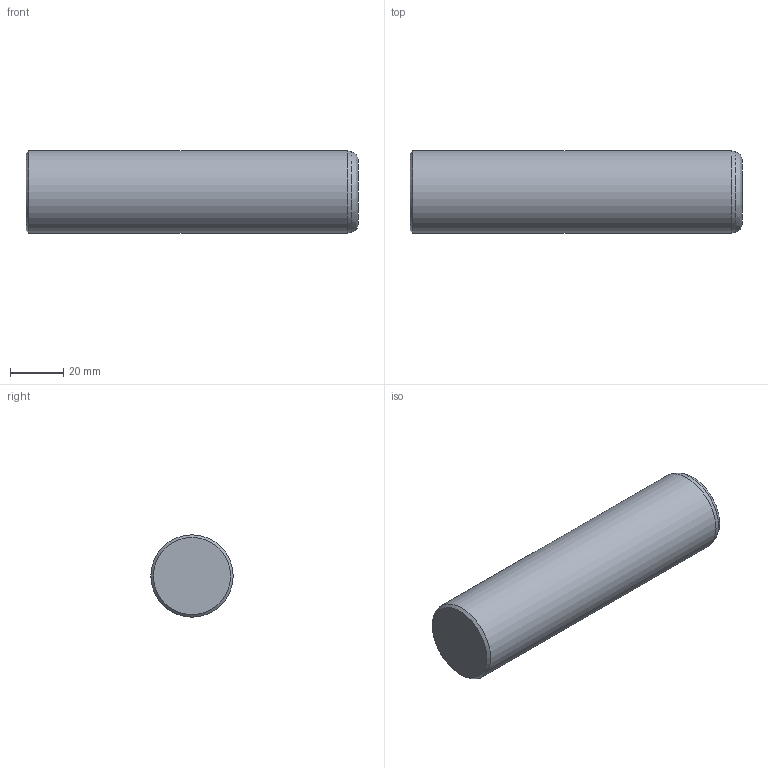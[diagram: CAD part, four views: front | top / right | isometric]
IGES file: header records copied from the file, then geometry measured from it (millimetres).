
Global section: file name: C431125.ipt; native system: Autodesk Inventor 2021; preprocessor: unknown; author: SM; date: 20211220.143239; units: millimetre
Bounding box: 125 x 31 x 31 mm (x, y, z)
Volume: 94013.6 mm3; surface area: 13462.6 mm2
Topology: 1 solids, 1 shells, 6 faces, 11 edges, 7 vertices
Faces by surface type: cone 2, plane 2, revolution 1, cylinder 1
Full cylindrical faces by diameter (mm): 31 x1
